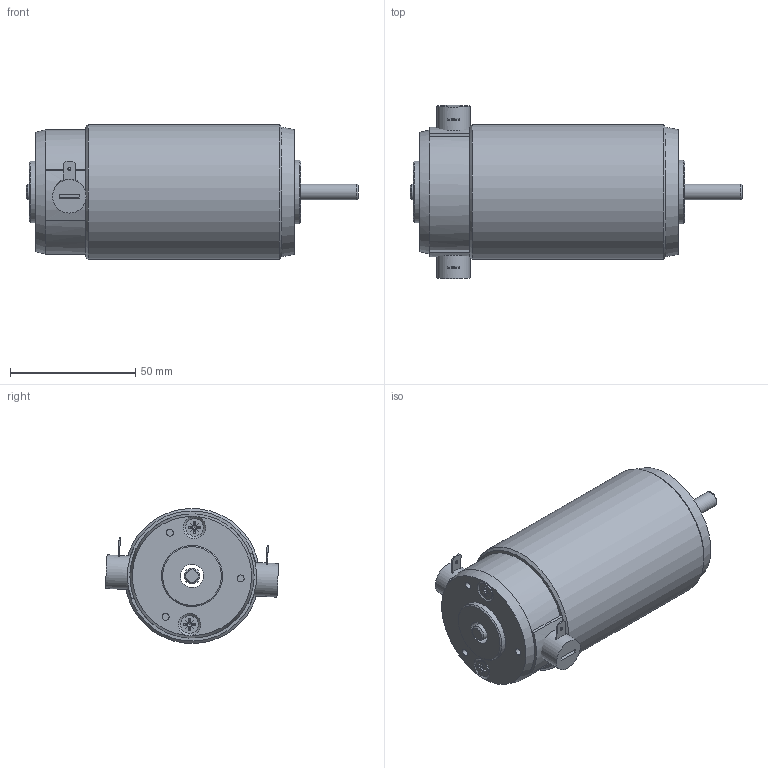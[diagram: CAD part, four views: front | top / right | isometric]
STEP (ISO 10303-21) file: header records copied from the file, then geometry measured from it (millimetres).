
FILE_DESCRIPTION(/* description */ (''),/* implementation_level */ '2;1');
FILE_NAME(/* name */ 'Z:\새 폴더\Compact Type RM5_3D\RM54_TYPE.stp',/* time_stamp */ '2022-04-05T16:49:17+09:00',/* author */ ('umbro'),/* organization */ (''),/* preprocessor_version */ 'ST-DEVELOPER v17',/* originating_system */ 'Autodesk Inventor 2019',/* authorisation */ '');
FILE_SCHEMA (('AUTOMOTIVE_DESIGN { 1 0 10303 214 3 1 1 }'));
Length unit declared in the file: millimetre
Products named in the file (11): RM54_TYPE; RM5_PIPE_pi54XL78.4; RM5_FRONT; RM5_TYPE_REAR_HOUSING; RM5_REAR; BRUSH_HOLDER_ASSY; BRUSH_HOLDER_ASSY_MIR; RM5_BRUSH_COVER_RED; RM5_BRUSH_COVER_BRACK; RM54_SHAFT; AS 1427 Z - 미터 M4 x 50
Assembly tree (11 placements, depth 3):
  RM54_TYPE
    RM5_PIPE_pi54XL78.4
    RM5_FRONT
    RM5_TYPE_REAR_HOUSING
      RM5_REAR
      BRUSH_HOLDER_ASSY
      BRUSH_HOLDER_ASSY_MIR
      RM5_BRUSH_COVER_RED
      RM5_BRUSH_COVER_BRACK
    RM54_SHAFT
    AS 1427 Z - 미터 M4 x 50  x2
Bounding box: 132.6 x 69.19 x 53.89 mm (x, y, z)
Volume: 85837.1 mm3; surface area: 47837.8 mm2
Topology: 10 solids, 10 shells, 189 faces, 472 edges, 313 vertices
Faces by surface type: plane 96, cylinder 43, cone 41, torus 9
Full cylindrical faces by diameter (mm): 1.3 x2, 2.8 x7, 3.571 x2, 4 x4, 4.2 x2, 5.76 x3, 6.334 x1, 7 x2, 9.3 x2, 11 x4, 13.4 x2, 24.5 x1, 25.4 x1, 46 x2, 49.6 x1, 54 x1
Entity records: 5241 total; most frequent: CARTESIAN_POINT 1197, DIRECTION 793, ORIENTED_EDGE 714, EDGE_CURVE 357, AXIS2_PLACEMENT_3D 314, VERTEX_POINT 238, EDGE_LOOP 189, LINE 165
